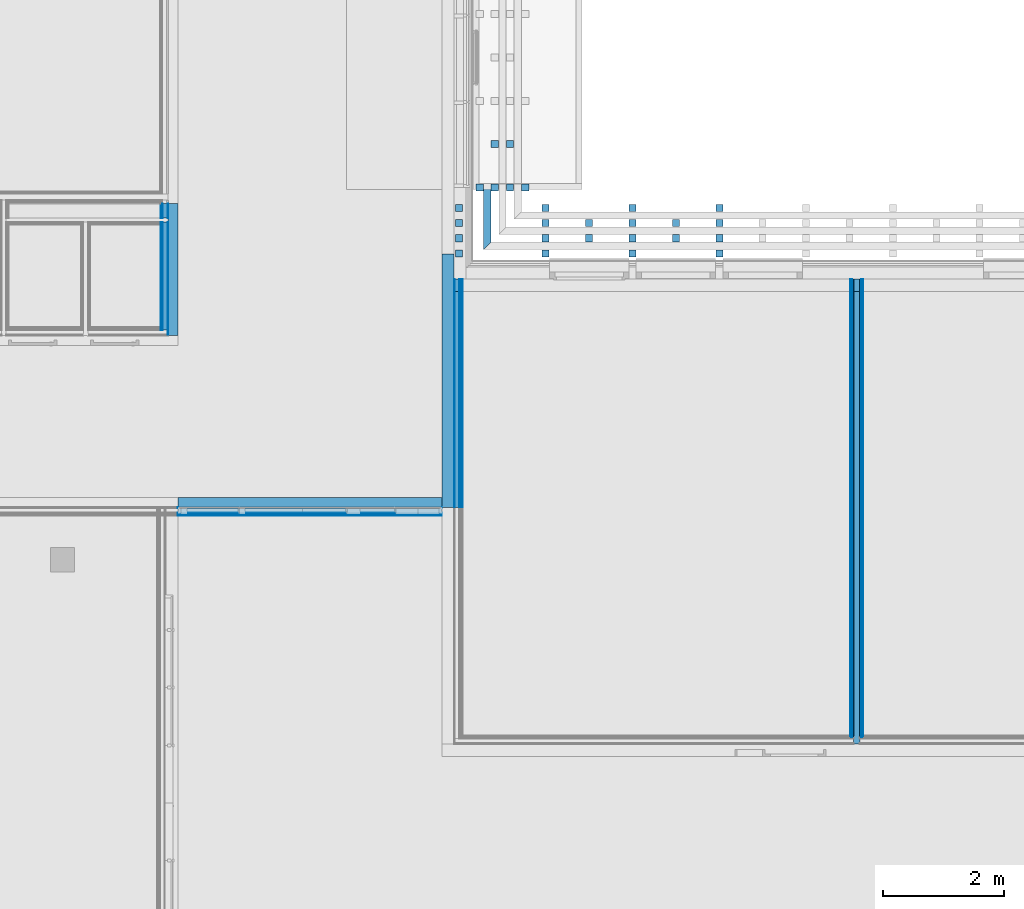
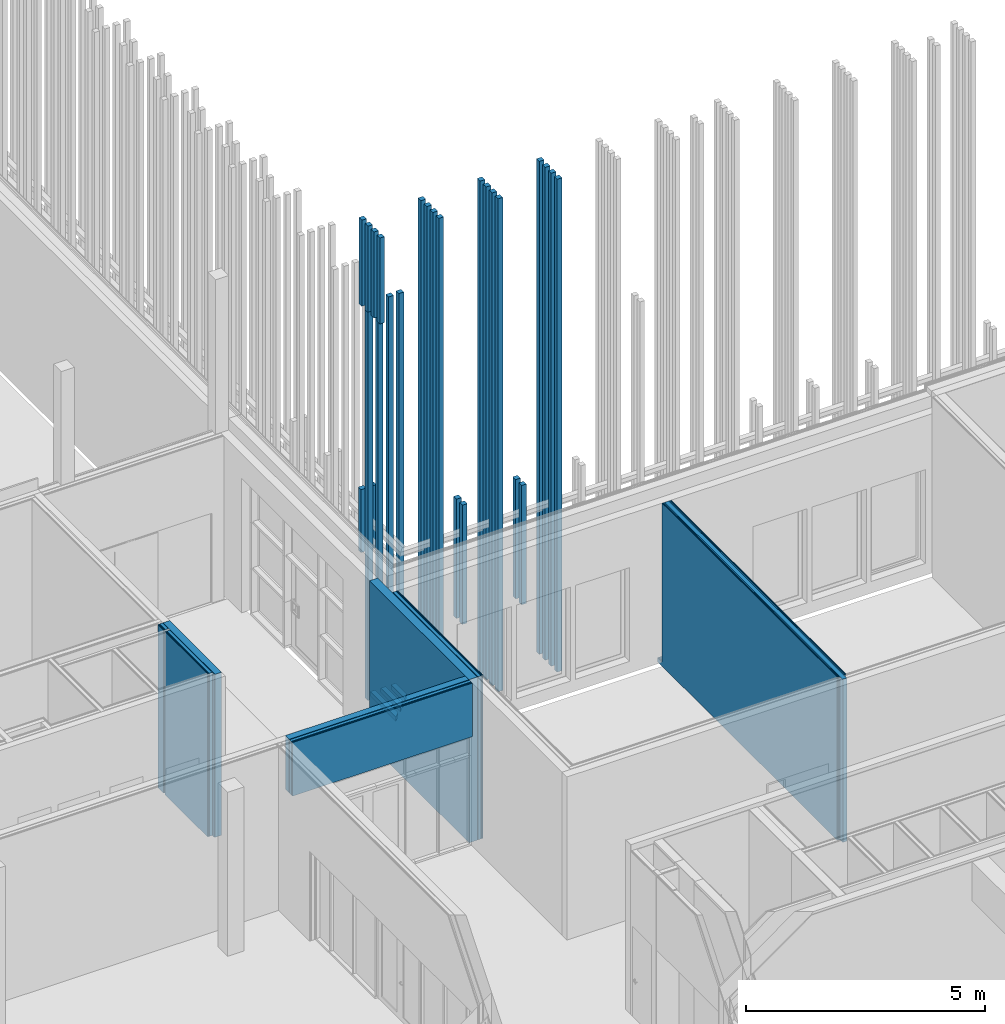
# One storey, part 184 of 260: 29 building element parts, 9 discrete accessories, 1 opening, 4 elements without a shape of their own.
"""IFC2X3 building model written with IfcOpenShell, lengths in millimetres."""

import ifcopenshell
import ifcopenshell.guid

model = None  # the IFC model being written
_history = None  # IfcOwnerHistory: only IFC2X3 demands one
_inside = {}  # id of a spatial element -> (the spatial element, [elements in it])
_under = {}  # id of a project, library or spatial element -> (it, [spatial elements below it])
_declared = {}  # id of a project -> (the project, [libraries it declares])
_typed = {}  # id of a type object -> (the type object, [elements of that type])
_made_of = {}  # id of a material, layer set ... -> (it, [elements and type objects made of it])


def new_model(schema):
    """Start an empty IFC model of exactly this schema.

    Asked for "IFC4X3", IfcOpenShell would pick the latest addendum, in which some entities
    have other attributes; the version numbers below select the first issue.
    IFC2X3 requires an IfcOwnerHistory on every rooted entity: one is made here for all.
    """
    global model, _history
    if schema == "IFC4X3":
        model = ifcopenshell.file(schema_version=(4, 3, 0, 0))
    else:
        model = ifcopenshell.file(schema=schema)
    _inside.clear()
    _under.clear()
    _declared.clear()
    _typed.clear()
    _made_of.clear()
    _history = None
    if model.schema == "IFC2X3":
        org = make("IfcOrganization", Name="unknown")
        user = make(
            "IfcPersonAndOrganization",
            ThePerson=make("IfcPerson", FamilyName="unknown"),
            TheOrganization=org,
        )
        app = make(
            "IfcApplication",
            ApplicationDeveloper=org,
            Version="unknown",
            ApplicationFullName="unknown",
            ApplicationIdentifier="unknown",
        )
        _history = make(
            "IfcOwnerHistory",
            OwningUser=user,
            OwningApplication=app,
            ChangeAction="ADDED",
            CreationDate=0,
        )
    return model


def make(cls, **values):
    """One entity of the class cls with the attributes given. An attribute that is None is left unset."""
    return model.create_entity(
        cls, **{name: value for name, value in values.items() if value is not None}
    )


def entity(cls, *values):
    """Any entity or typed value of the class cls, its attributes in the order of the schema. None: left unset."""
    e = model.create_entity(cls)
    for i, value in enumerate(values):
        if value is not None:
            e[i] = value
    return e


def rooted(cls, **values):
    """An entity with a GlobalId (a new one), such as an element, a storey or a relation."""
    return make(cls, GlobalId=ifcopenshell.guid.new(), OwnerHistory=_history, **values)


def si_unit(unit_type, name, prefix=None):
    """IfcSIUnit, for example si_unit("LENGTHUNIT", "METRE", prefix="MILLI")."""
    return make("IfcSIUnit", UnitType=unit_type, Prefix=prefix, Name=name)


def converted_unit(unit_type, name, factor, base, dimensions=None, offset=None):
    """IfcConversionBasedUnit, such as the inch: factor (a typed value) times the base unit."""
    return make(
        "IfcConversionBasedUnit"
        if offset is None
        else "IfcConversionBasedUnitWithOffset",
        ConversionOffset=offset,
        Dimensions=None
        if dimensions is None
        else entity("IfcDimensionalExponents", *dimensions),
        UnitType=unit_type,
        Name=name,
        ConversionFactor=make(
            "IfcMeasureWithUnit", ValueComponent=factor, UnitComponent=base
        ),
    )


def derived_unit(unit_type, elements):
    """IfcDerivedUnit: a product of units, each with its exponent."""
    return make(
        "IfcDerivedUnit",
        Elements=[
            make("IfcDerivedUnitElement", Unit=unit, Exponent=power)
            for unit, power in elements
        ],
        UnitType=unit_type,
    )


def money_unit(currency):
    """IfcMonetaryUnit."""
    return make("IfcMonetaryUnit", Currency=currency)


def assignment(units):
    """IfcUnitAssignment: the units of a project."""
    return None if units is None else make("IfcUnitAssignment", Units=units)


def point(xyz):
    """IfcCartesianPoint."""
    return None if xyz is None else make("IfcCartesianPoint", Coordinates=xyz)


def direction(xyz):
    """IfcDirection."""
    return None if xyz is None else make("IfcDirection", DirectionRatios=xyz)


def frame(location, z_axis=None, x_axis=None):
    """IfcAxis2Placement3D, a coordinate frame: its origin and axes. An axis left out is left unset."""
    return make(
        "IfcAxis2Placement3D",
        Location=point(location),
        Axis=direction(z_axis),
        RefDirection=direction(x_axis),
    )


def origin_with_axes():
    """The frame at (0, 0, 0) with the z axis (0, 0, 1) and the x axis (1, 0, 0) written out."""
    return frame((0.0, 0.0, 0.0), z_axis=(0.0, 0.0, 1.0), x_axis=(1.0, 0.0, 0.0))


def place(relative_to, where):
    """IfcLocalPlacement: puts the frame where relative to a parent placement (None: the world)."""
    return make(
        "IfcLocalPlacement", PlacementRelTo=relative_to, RelativePlacement=where
    )


def context(
    kind, dimensions, precision=None, world=None, true_north=None, identifier=None
):
    """IfcGeometricRepresentationContext, for example the 3D "Model" context."""
    return make(
        "IfcGeometricRepresentationContext",
        ContextIdentifier=identifier,
        ContextType=kind,
        CoordinateSpaceDimension=dimensions,
        Precision=precision,
        WorldCoordinateSystem=world,
        TrueNorth=true_north,
    )


def subcontext(parent, identifier, kind, view, scale=None):
    """IfcGeometricRepresentationSubContext, for example "Body" below "Model"."""
    return make(
        "IfcGeometricRepresentationSubContext",
        ContextIdentifier=identifier,
        ContextType=kind,
        ParentContext=parent,
        TargetScale=scale,
        TargetView=view,
    )


def project(units=None, contexts=None):
    """IfcProject with its units and contexts."""
    return rooted(
        "IfcProject",
        Name="project",
        RepresentationContexts=contexts,
        UnitsInContext=assignment(units),
    )


def spatial(cls, under=None, at=None, **own):
    """A site, building, storey or space (cls), placed at a placement, below another one or the project."""
    s = rooted(cls, ObjectPlacement=at, **own)
    if under is not None:
        _under.setdefault(under.id(), (under, []))[1].append(s)
    return s


def faces_of(points, faces, orient=None, outer=None):
    """IfcFace entities. A face is a list of loops; a loop is a list of indices into points, from 0.

    orient and outer hold one flag for each loop. By default every Orientation is true, the
    first loop of a face is its IfcFaceOuterBound and the others are IfcFaceBound.
    """
    made = []
    for i, loops in enumerate(faces):
        bounds = []
        for j, loop in enumerate(loops):
            is_outer = j == 0 if outer is None else outer[i][j]
            bounds.append(
                make(
                    "IfcFaceOuterBound" if is_outer else "IfcFaceBound",
                    Bound=make("IfcPolyLoop", Polygon=[points[k] for k in loop]),
                    Orientation=True if orient is None else orient[i][j],
                )
            )
        made.append(make("IfcFace", Bounds=bounds))
    return made


def faceted_brep(points, faces, orient=None, outer=None, voids=None):
    """IfcFacetedBrep: a solid bounded by flat faces; with voids (closed shells), ...WithVoids."""
    shared = [point(p) for p in points]
    hull = make("IfcClosedShell", CfsFaces=faces_of(shared, faces, orient, outer))
    if voids is None:
        return make("IfcFacetedBrep", Outer=hull)
    return make(
        "IfcFacetedBrepWithVoids",
        Outer=hull,
        Voids=[
            make(cls, CfsFaces=faces_of(shared, fs, o, b)) for cls, fs, o, b in voids
        ],
    )


def shape(context_of_items, identifier, shape_type, items):
    """IfcShapeRepresentation: the items that make up one representation, for example the "Body"."""
    return make(
        "IfcShapeRepresentation",
        ContextOfItems=context_of_items,
        RepresentationIdentifier=identifier,
        RepresentationType=shape_type,
        Items=items,
    )


def material(Name=None, Category=None):
    """IfcMaterial."""
    return make("IfcMaterial", Name=Name, Category=Category)


def material_list(materials):
    """IfcMaterialList."""
    return make("IfcMaterialList", Materials=materials)


def made_of(thing, what):
    """Note that an element or type object is made of a material, layer set ...; save() writes the relation."""
    if what is not None:
        _made_of.setdefault(what.id(), (what, []))[1].append(thing)
    return thing


def type_object(cls, material=None, **own):
    """A type object (cls), such as IfcWallType, which elements share."""
    return made_of(rooted(cls, **own), material)


def element(
    cls,
    number,
    at=None,
    inside=None,
    cuts=None,
    type_object=None,
    material=None,
    context=None,
    identifier="Body",
    shape_type=None,
    held_by="IfcProductDefinitionShape",
    body=None,
    shapes=None,
    **own,
):
    """One element of the class cls, such as IfcWall. Its Tag is "e" and its number.

    at: its placement. inside: the storey or other place that contains it. cuts: it is an
    opening in that element (IfcRelVoidsElement). A single representation is given by context,
    identifier, shape_type and body (its items); several are given by shapes. held_by: the class
    of the entity that holds the representations. save() writes the other relations.
    """
    e = rooted(cls, Tag="e%d" % number, ObjectPlacement=at, **own)
    if body is not None:
        shapes = [shape(context, identifier, shape_type, body)]
    if shapes is not None:
        e.Representation = make(held_by, Representations=shapes)
    if inside is not None:
        _inside.setdefault(inside.id(), (inside, []))[1].append(e)
    if cuts is not None:
        rooted(
            "IfcRelVoidsElement", RelatingBuildingElement=cuts, RelatedOpeningElement=e
        )
    if type_object is not None:
        _typed.setdefault(type_object.id(), (type_object, []))[1].append(e)
    return made_of(e, material)


def aggregate(whole, parts):
    """IfcRelAggregates: a whole, such as a stair, and the parts it consists of."""
    return rooted("IfcRelAggregates", RelatingObject=whole, RelatedObjects=parts)


def save(model, path):
    """Write the relations noted so far, then the file.

    IfcRelAggregates (storeys below a building ...), IfcRelContainedInSpatialStructure (elements
    in a storey), IfcRelDefinesByType, IfcRelAssociatesMaterial and IfcRelDeclares: one each for
    every whole, place, type object, material and project.
    """
    for whole, parts in _under.values():
        aggregate(whole, parts)
    for where, things in _inside.values():
        rooted(
            "IfcRelContainedInSpatialStructure",
            RelatedElements=things,
            RelatingStructure=where,
        )
    for kind, things in _typed.values():
        rooted("IfcRelDefinesByType", RelatedObjects=things, RelatingType=kind)
    for what, things in _made_of.values():
        rooted("IfcRelAssociatesMaterial", RelatedObjects=things, RelatingMaterial=what)
    for by, libraries in _declared.values():
        rooted("IfcRelDeclares", RelatingContext=by, RelatedDefinitions=libraries)
    model.write(path)


model = new_model("IFC2X3")

# Units and contexts
model_context = context("Model", 3, precision=0.01, world=origin_with_axes(), true_north=direction((0.0, 1.0)))
body_context = subcontext(model_context, "Body", "Model", "MODEL_VIEW")
ifc_project = project(units=[si_unit("LENGTHUNIT", "METRE", prefix="MILLI"), si_unit("AREAUNIT", "SQUARE_METRE"), si_unit("VOLUMEUNIT", "CUBIC_METRE"), converted_unit("PLANEANGLEUNIT", "DEGREE", entity("IfcPlaneAngleMeasure", 0.0174532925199), si_unit("PLANEANGLEUNIT", "RADIAN"), dimensions=[0, 0, 0, 0, 0, 0, 0]), money_unit("EUR"), converted_unit("TIMEUNIT", "Year", entity("IfcTimeMeasure", 31556926.0), si_unit("TIMEUNIT", "SECOND"), dimensions=[0, 0, 1, 0, 0, 0, 0]), si_unit("MASSUNIT", "GRAM", prefix="KILO"), si_unit("THERMODYNAMICTEMPERATUREUNIT", "DEGREE_CELSIUS"), si_unit("LUMINOUSINTENSITYUNIT", "LUMEN"), si_unit("ENERGYUNIT", "JOULE", prefix="MEGA"), derived_unit("THERMALCONDUCTANCEUNIT", [(si_unit("POWERUNIT", "WATT"), 1), (si_unit("LENGTHUNIT", "METRE"), -1), (si_unit("THERMODYNAMICTEMPERATUREUNIT", "KELVIN"), -1)]), derived_unit("SPECIFICHEATCAPACITYUNIT", [(si_unit("ENERGYUNIT", "JOULE"), 1), (si_unit("MASSUNIT", "GRAM", prefix="KILO"), -1), (si_unit("THERMODYNAMICTEMPERATUREUNIT", "KELVIN"), -1)]), derived_unit("MASSDENSITYUNIT", [(si_unit("MASSUNIT", "GRAM", prefix="KILO"), 1), (si_unit("VOLUMEUNIT", "CUBIC_METRE"), -1)])], contexts=[model_context])

# Site, building, storey
site_placement = place(None, origin_with_axes())
site = spatial("IfcSite", under=ifc_project, at=site_placement, Name="Kolde pst 67a", CompositionType="ELEMENT")
building_placement = place(site_placement, origin_with_axes())
building = spatial("IfcBuilding", under=site, at=building_placement, Name="Riigigümnaasium", CompositionType="ELEMENT")
storey_placement = place(building_placement, origin_with_axes())
storey = spatial("IfcBuildingStorey", under=building, at=storey_placement, Name="1. korrus", CompositionType="ELEMENT", Elevation=0.0)

# Discrete accessories
ifc_material_1 = material(Name="_VÄLISVIIMISTLUS - sõrmjätkatud puitprussid 120x115mm, liitekohad vähemärgatavad, Platowood sõrmjätkatud kuusk või samaväärne; eeltöödeldud tuletõkkevõõbaga, tuletundlikkus B-s1, d0, Woodsafe Exterior WFX™ või samaväärne; kinnitused vastavalt EK osale")
ifc_material_list_1 = material_list([ifc_material_1, ifc_material_1, ifc_material_1, ifc_material_1])
discrete_accessory_type_1 = type_object("IfcDiscreteAccessoryType", Name="120 4-ne vertikaalne 870 x 115")
discrete_accessory_1_placement = place(storey_placement, frame((36789.999111, 61937.5247324, 280.0), z_axis=(0.0, 0.0, 1.0), x_axis=(-0.999999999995, -3.13999128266e-06, 0.0)))
element("IfcDiscreteAccessory", 1, at=discrete_accessory_1_placement, inside=storey, type_object=discrete_accessory_type_1, material=ifc_material_list_1, Name="Päikesevarjestus", context=body_context, shape_type="Brep", body=[
    faceted_brep([(-133.0, -70.0, 0.0), (-13.0, -70.0, 0.0), (-13.0, -70.0, 10140.0), (-133.0, -70.0, 10140.0), (-133.0, 45.0, 0.0), (-13.0, 45.0, 0.0), (-13.0, 45.0, 10140.0), (-133.0, 45.0, 10140.0)], [[[0, 1, 2, 3]], [[0, 4, 5, 1]], [[1, 5, 6, 2]], [[3, 2, 6, 7]], [[4, 0, 3, 7]], [[5, 4, 7, 6]]]),
    faceted_brep([(-383.0, -70.0, 0.0), (-263.0, -70.0, 0.0), (-263.0, -70.0, 10140.0), (-383.0, -70.0, 10140.0), (-383.0, 45.0, 0.0), (-263.0, 45.0, 0.0), (-263.0, 45.0, 10140.0), (-383.0, 45.0, 10140.0)], [[[0, 1, 2, 3]], [[0, 4, 5, 1]], [[1, 5, 6, 2]], [[3, 2, 6, 7]], [[4, 0, 3, 7]], [[5, 4, 7, 6]]]),
    faceted_brep([(-633.0, -70.0, 0.0), (-513.0, -70.0, 0.0), (-513.0, -70.0, 10140.0), (-633.0, -70.0, 10140.0), (-633.0, 45.0, 0.0), (-513.0, 45.0, 0.0), (-513.0, 45.0, 10140.0), (-633.0, 45.0, 10140.0)], [[[0, 1, 2, 3]], [[0, 4, 5, 1]], [[1, 5, 6, 2]], [[3, 2, 6, 7]], [[4, 0, 3, 7]], [[5, 4, 7, 6]]]),
    faceted_brep([(-883.0, -70.0, 0.0), (-763.0, -70.0, 0.0), (-763.0, -70.0, 10140.0), (-883.0, -70.0, 10140.0), (-883.0, 45.0, 0.0), (-763.0, 45.0, 0.0), (-763.0, 45.0, 10140.0), (-883.0, 45.0, 10140.0)], [[[0, 1, 2, 3]], [[0, 4, 5, 1]], [[1, 5, 6, 2]], [[3, 2, 6, 7]], [[4, 0, 3, 7]], [[5, 4, 7, 6]]]),
])
discrete_accessory_2_placement = place(storey_placement, frame((36532.5846284, 60792.0000352, 10680.0), z_axis=(0.0, 0.0, 1.0), x_axis=(3.13999128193e-06, -0.999999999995, 0.0)))
element("IfcDiscreteAccessory", 2, at=discrete_accessory_2_placement, inside=storey, type_object=discrete_accessory_type_1, material=ifc_material_list_1, Name="Päikesevarjestus", context=body_context, shape_type="Brep", body=[
    faceted_brep([(-133.0, -70.0, 0.0), (-13.0, -70.0, 0.0), (-13.0, -70.0, 2200.0), (-133.0, -70.0, 2200.0), (-133.0, 45.0, 0.0), (-13.0, 45.0, 0.0), (-13.0, 45.0, 2200.0), (-133.0, 45.0, 2200.0)], [[[0, 1, 2, 3]], [[0, 4, 5, 1]], [[1, 5, 6, 2]], [[3, 2, 6, 7]], [[4, 0, 3, 7]], [[5, 4, 7, 6]]]),
    faceted_brep([(-383.0, -70.0, 0.0), (-263.0, -70.0, 0.0), (-263.0, -70.0, 2200.0), (-383.0, -70.0, 2200.0), (-383.0, 45.0, 0.0), (-263.0, 45.0, 0.0), (-263.0, 45.0, 2200.0), (-383.0, 45.0, 2200.0)], [[[0, 1, 2, 3]], [[0, 4, 5, 1]], [[1, 5, 6, 2]], [[3, 2, 6, 7]], [[4, 0, 3, 7]], [[5, 4, 7, 6]]]),
    faceted_brep([(-633.0, -70.0, 0.0), (-513.0, -70.0, 0.0), (-513.0, -70.0, 2200.0), (-633.0, -70.0, 2200.0), (-633.0, 45.0, 0.0), (-513.0, 45.0, 0.0), (-513.0, 45.0, 2200.0), (-633.0, 45.0, 2200.0)], [[[0, 1, 2, 3]], [[0, 4, 5, 1]], [[1, 5, 6, 2]], [[3, 2, 6, 7]], [[4, 0, 3, 7]], [[5, 4, 7, 6]]]),
    faceted_brep([(-883.0, -70.0, 0.0), (-763.0, -70.0, 0.0), (-763.0, -70.0, 2200.0), (-883.0, -70.0, 2200.0), (-883.0, 45.0, 0.0), (-763.0, 45.0, 0.0), (-763.0, 45.0, 2200.0), (-883.0, 45.0, 2200.0)], [[[0, 1, 2, 3]], [[0, 4, 5, 1]], [[1, 5, 6, 2]], [[3, 2, 6, 7]], [[4, 0, 3, 7]], [[5, 4, 7, 6]]]),
])
for number, where, z_axis, x_axis in (
    (3, (40822.494314, 60792.0000843, 280.0), (0.0, 0.0, 1.0), (3.13999128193e-06, -0.999999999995, 0.0)),
    (4, (39392.494314, 60792.0000609, 280.0), (0.0, 0.0, 1.0), (3.13999128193e-06, -0.999999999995, 0.0)),
    (5, (37962.494314, 60792.0000375, 280.0), (0.0, 0.0, 1.0), (3.13999128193e-06, -0.999999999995, 0.0)),
):
    element("IfcDiscreteAccessory", number, at=place(storey_placement, frame(where, z_axis=z_axis, x_axis=x_axis)), inside=storey, type_object=discrete_accessory_type_1, material=ifc_material_list_1, Name="Päikesevarjestus", context=body_context, shape_type="Brep", body=[
        faceted_brep([(-133.0, -70.0, 0.0), (-13.0, -70.0, 0.0), (-13.0, -70.0, 12600.0), (-133.0, -70.0, 12600.0), (-133.0, 45.0, 0.0), (-13.0, 45.0, 0.0), (-13.0, 45.0, 12600.0), (-133.0, 45.0, 12600.0)], [[[0, 1, 2, 3]], [[0, 4, 5, 1]], [[1, 5, 6, 2]], [[3, 2, 6, 7]], [[4, 0, 3, 7]], [[5, 4, 7, 6]]]),
        faceted_brep([(-383.0, -70.0, 0.0), (-263.0, -70.0, 0.0), (-263.0, -70.0, 12600.0), (-383.0, -70.0, 12600.0), (-383.0, 45.0, 0.0), (-263.0, 45.0, 0.0), (-263.0, 45.0, 12600.0), (-383.0, 45.0, 12600.0)], [[[0, 1, 2, 3]], [[0, 4, 5, 1]], [[1, 5, 6, 2]], [[3, 2, 6, 7]], [[4, 0, 3, 7]], [[5, 4, 7, 6]]]),
        faceted_brep([(-633.0, -70.0, 0.0), (-513.0, -70.0, 0.0), (-513.0, -70.0, 12600.0), (-633.0, -70.0, 12600.0), (-633.0, 45.0, 0.0), (-513.0, 45.0, 0.0), (-513.0, 45.0, 12600.0), (-633.0, 45.0, 12600.0)], [[[0, 1, 2, 3]], [[0, 4, 5, 1]], [[1, 5, 6, 2]], [[3, 2, 6, 7]], [[4, 0, 3, 7]], [[5, 4, 7, 6]]]),
        faceted_brep([(-883.0, -70.0, 0.0), (-763.0, -70.0, 0.0), (-763.0, -70.0, 12600.0), (-883.0, -70.0, 12600.0), (-883.0, 45.0, 0.0), (-763.0, 45.0, 0.0), (-763.0, 45.0, 12600.0), (-883.0, 45.0, 12600.0)], [[[0, 1, 2, 3]], [[0, 4, 5, 1]], [[1, 5, 6, 2]], [[3, 2, 6, 7]], [[4, 0, 3, 7]], [[5, 4, 7, 6]]]),
    ])
ifc_material_list_2 = material_list([ifc_material_1, ifc_material_1, ifc_material_1])
discrete_accessory_type_2 = type_object("IfcDiscreteAccessoryType", Name="120 1+paiksekaitse 3 tk  620 x 115")
discrete_accessory_3_placement = place(storey_placement, frame((36802.9988833, 60804.99951, 352.5), z_axis=(0.0, 0.0, 1.0), x_axis=(1.0, 0.0, 0.0)))
element("IfcDiscreteAccessory", 6, at=discrete_accessory_3_placement, inside=storey, type_object=discrete_accessory_type_2, material=ifc_material_list_2, Name="Päikesevarjestus", context=body_context, shape_type="Brep", body=[
    faceted_brep([(625.0, 1205.02752402, 45.0), (625.0, 625.000013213, 45.0), (745.0, 745.00001575, 45.0), (745.0, 1205.02752402, 45.0), (625.0, 1205.02752402, -70.0), (625.0, 625.000013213, -70.0), (745.0, 745.00001575, -70.0), (745.0, 1205.02752402, -70.0)], [[[0, 1, 2, 3]], [[4, 5, 1, 0]], [[5, 6, 2, 1]], [[3, 2, 6, 7]], [[4, 0, 3, 7]], [[7, 6, 5, 4]]]),
    faceted_brep([(375.0, 1205.02752402, 45.0), (375.0, 375.000007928, 45.0), (495.0, 495.000010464, 45.0), (495.0, 1205.02752402, 45.0), (375.0, 1205.02752402, -70.0), (375.0, 375.000007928, -70.0), (495.0, 495.000010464, -70.0), (495.0, 1205.02752402, -70.0)], [[[0, 1, 2, 3]], [[4, 5, 1, 0]], [[5, 6, 2, 1]], [[3, 2, 6, 7]], [[4, 0, 3, 7]], [[7, 6, 5, 4]]]),
    faceted_brep([(125.0, 1205.02752402, 45.0), (125.0, 125.000002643, 45.0), (245.0, 245.000005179, 45.0), (245.0, 1205.02752402, 45.0), (125.0, 1205.02752402, -70.0), (125.0, 125.000002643, -70.0), (245.0, 245.000005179, -70.0), (245.0, 1205.02752402, -70.0)], [[[0, 1, 2, 3]], [[4, 5, 1, 0]], [[5, 6, 2, 1]], [[3, 2, 6, 7]], [[4, 0, 3, 7]], [[7, 6, 5, 4]]]),
])
ifc_material_list_3 = material_list([ifc_material_1, ifc_material_1])
discrete_accessory_type_3 = type_object("IfcDiscreteAccessoryType", Name="1+paiksekaitse 3 370 x 115")
for number, where, z_axis, x_axis in (
    (7, (40035.0059762, 61772.0001843, 2100.00014213), (0.0, 0.0, 1.0), (0.0, -1.0, 0.0)),
    (8, (38604.990882, 61771.9998075, 2100.00014213), (0.0, 0.0, 1.0), (0.0, -1.0, 0.0)),
):
    element("IfcDiscreteAccessory", number, at=place(storey_placement, frame(where, z_axis=z_axis, x_axis=x_axis)), inside=storey, type_object=discrete_accessory_type_3, material=ifc_material_list_3, Name="Päikesevarjestus", context=body_context, shape_type="Brep", body=[
        faceted_brep([(467.0, 117.5, 0.0), (347.0, 117.5, 0.0), (347.0, 117.5, 3050.0), (467.0, 117.5, 3050.0), (467.0, 2.5, 0.0), (347.0, 2.5, 0.0), (347.0, 2.5, 3050.0), (467.0, 2.5, 3050.0)], [[[0, 1, 2, 3]], [[0, 4, 5, 1]], [[1, 5, 6, 2]], [[3, 2, 6, 7]], [[4, 0, 3, 7]], [[5, 4, 7, 6]]]),
        faceted_brep([(717.0, 117.5, 0.0), (597.0, 117.5, 0.0), (597.0, 117.5, 3050.0), (717.0, 117.5, 3050.0), (717.0, 2.5, 0.0), (597.0, 2.5, 0.0), (597.0, 2.5, 3050.0), (717.0, 2.5, 3050.0)], [[[0, 1, 2, 3]], [[0, 4, 5, 1]], [[1, 5, 6, 2]], [[3, 2, 6, 7]], [[4, 0, 3, 7]], [[5, 4, 7, 6]]]),
    ])
discrete_accessory_4_placement = place(storey_placement, frame((37769.99923, 62725.0246394, 3540.00014213), z_axis=(0.0, 0.0, 1.0), x_axis=(-1.0, 0.0, 0.0)))
element("IfcDiscreteAccessory", 9, at=discrete_accessory_4_placement, inside=storey, type_object=discrete_accessory_type_3, material=ifc_material_list_3, Name="Päikesevarjestus", context=body_context, shape_type="Brep", body=[
    faceted_brep([(467.0, 117.5, 0.0), (347.0, 117.5, 0.0), (347.0, 117.5, 1610.0), (467.0, 117.5, 1610.0), (467.0, 2.5, 0.0), (347.0, 2.5, 0.0), (347.0, 2.5, 1610.0), (467.0, 2.5, 1610.0)], [[[0, 1, 2, 3]], [[0, 4, 5, 1]], [[1, 5, 6, 2]], [[3, 2, 6, 7]], [[4, 0, 3, 7]], [[5, 4, 7, 6]]]),
    faceted_brep([(717.0, 117.5, 0.0), (597.0, 117.5, 0.0), (597.0, 117.5, 1610.0), (717.0, 117.5, 1610.0), (717.0, 2.5, 0.0), (597.0, 2.5, 0.0), (597.0, 2.5, 1610.0), (717.0, 2.5, 1610.0)], [[[0, 1, 2, 3]], [[0, 4, 5, 1]], [[1, 5, 6, 2]], [[3, 2, 6, 7]], [[4, 0, 3, 7]], [[5, 4, 7, 6]]]),
])

# Wall, building element parts
wall_type_1 = type_object("IfcWallType", Name="SS-CLT-20/1_vill+krohv 340", PredefinedType="NOTDEFINED")
wall_1_placement = place(storey_placement, frame((36439.99923, 60440.0001843, 0.0), z_axis=(0.0, 0.0, 1.0), x_axis=(0.0, -1.0, 0.0)))
wall_1 = element("IfcWall", 10, at=wall_1_placement, inside=storey, type_object=wall_type_1, Name="Sisesein")
ifc_material_2 = material(Name="_VIIMISTLUSKIHT - viimistlus vastavalt SA osale")
building_element_part_1_placement = place(wall_1_placement, origin_with_axes())
building_element_part_1 = element("IfcBuildingElementPart", 11, at=building_element_part_1_placement, material=ifc_material_2, Name="_VIIMISTLUSKIHT - viimistlus vastavalt SA osale", context=body_context, shape_type="Brep", body=[
    faceted_brep([(199.999999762, 130.000000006, 4170.0), (199.999999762, 140.0, 4170.0), (199.999999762, 140.0, 100.0), (199.999999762, 130.000001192, 100.0), (3760.0022365, 140.0, 4170.0), (3760.0022365, 130.0, 4170.0), (3760.0022365, 140.0, 0.0), (0.0, 140.0, 0.0), (0.0, 140.0, 100.0), (0.0, 130.000001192, 100.0), (0.0, 130.000001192, 0.0), (3760.0022365, 130.0, 0.0)], [[[0, 1, 2, 3]], [[4, 1, 0, 5]], [[1, 4, 6, 7, 8, 2]], [[3, 2, 8, 9]], [[5, 0, 3, 9, 10, 11]], [[4, 5, 11, 6]], [[6, 11, 10, 7]], [[10, 9, 8, 7]]]),
])
ifc_material_3 = material(Name="_PLAATMATERJAL - tuletõkkekipsplaat, Knauf Red GKF või samaväärne")
building_element_part_2_placement = place(wall_1_placement, origin_with_axes())
building_element_part_2 = element("IfcBuildingElementPart", 12, at=building_element_part_2_placement, material=ifc_material_3, Name="_PLAATMATERJAL - tuletõkkekipsplaat, Knauf Red GKF või samaväärne", context=body_context, shape_type="Brep", body=[
    faceted_brep([(199.999999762, 115.0, 4170.0), (199.999999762, 130.000000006, 4170.0), (199.999999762, 130.000001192, 100.0), (199.999999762, 115.0, 100.0), (3760.0022365, 130.0, 4170.0), (3760.0022365, 115.0, 4170.0), (3760.0022365, 130.0, 0.0), (0.0, 130.000001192, 0.0), (0.0, 130.000001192, 100.0), (0.0, 115.0, 100.0), (0.0, 115.0, 0.0), (3760.0022365, 115.0, 0.0)], [[[0, 1, 2, 3]], [[4, 1, 0, 5]], [[1, 4, 6, 7, 8, 2]], [[3, 2, 8, 9]], [[5, 0, 3, 9, 10, 11]], [[4, 5, 11, 6]], [[6, 11, 10, 7]], [[10, 9, 8, 7]]]),
])
building_element_part_3_placement = place(wall_1_placement, origin_with_axes())
building_element_part_3 = element("IfcBuildingElementPart", 13, at=building_element_part_3_placement, material=ifc_material_3, Name="_PLAATMATERJAL - tuletõkkekipsplaat, Knauf Red GKF või samaväärne", context=body_context, shape_type="Brep", body=[
    faceted_brep([(199.999999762, 99.9999999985, 4170.0), (199.999999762, 115.0, 4170.0), (199.999999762, 115.0, 100.0), (199.999999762, 99.999999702, 100.0), (3760.0022365, 115.0, 4170.0), (3760.0022365, 100.0, 4170.0), (3760.0022365, 115.0, 0.0), (0.0, 115.0, 0.0), (0.0, 115.0, 100.0), (0.0, 99.999999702, 100.0), (0.0, 99.999999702, 0.0), (3760.0022365, 100.0, 0.0)], [[[0, 1, 2, 3]], [[4, 1, 0, 5]], [[1, 4, 6, 7, 8, 2]], [[3, 2, 8, 9]], [[5, 0, 3, 9, 10, 11]], [[4, 5, 11, 6]], [[6, 11, 10, 7]], [[10, 9, 8, 7]]]),
])
ifc_material_4 = material(Name="_PLAATMATERJAL - OSB3 plaat")
building_element_part_4_placement = place(wall_1_placement, origin_with_axes())
building_element_part_4 = element("IfcBuildingElementPart", 14, at=building_element_part_4_placement, material=ifc_material_4, Name="_PLAATMATERJAL - OSB3 plaat", context=body_context, shape_type="Brep", body=[
    faceted_brep([(199.999999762, 90.0000000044, 4170.0), (199.999999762, 99.9999999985, 4170.0), (199.999999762, 99.999999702, 100.0), (199.999999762, 90.0000008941, 100.0), (3760.0022365, 100.0, 4170.0), (3760.0022365, 90.0, 4170.0), (3760.0022365, 100.0, 0.0), (0.0, 99.999999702, 0.0), (0.0, 99.999999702, 100.0), (0.0, 90.0000008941, 100.0), (0.0, 90.0000008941, 0.0), (3760.0022365, 90.0, 0.0)], [[[0, 1, 2, 3]], [[4, 1, 0, 5]], [[1, 4, 6, 7, 8, 2]], [[3, 2, 8, 9]], [[5, 0, 3, 9, 10, 11]], [[4, 5, 11, 6]], [[6, 11, 10, 7]], [[10, 9, 8, 7]]]),
])
ifc_material_5 = material(Name="_KARKASS - metallkarkass CW 75/50/06 ja UW 75/40/06, samm 600, vahel mineraalvill, helineeldetegur αw = 1.0,  ISOVER ACOUSTIC 75mm või samaväärne")
building_element_part_5_placement = place(wall_1_placement, origin_with_axes())
building_element_part_5 = element("IfcBuildingElementPart", 15, at=building_element_part_5_placement, material=ifc_material_5, Name="_KARKASS - metallkarkass CW 75/50/06 ja UW 75/40/06, samm 600, vahel mineraalvill, helineeldetegur αw = 1.0,  ISOVER ACOUSTIC 75mm või samaväärne", context=body_context, shape_type="Brep", body=[
    faceted_brep([(199.999999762, 14.9999999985, 4170.0), (199.999999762, 90.0000000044, 4170.0), (199.999999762, 90.0000008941, 100.0), (199.999999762, 14.999999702, 100.0), (3760.0022365, 90.0, 4170.0), (3760.0022365, 15.0, 4170.0), (3760.0022365, 90.0, 0.0), (0.0, 90.0000008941, 0.0), (0.0, 90.0000008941, 100.0), (0.0, 14.999999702, 100.0), (0.0, 14.999999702, 0.0), (3760.0022365, 15.0, 0.0)], [[[0, 1, 2, 3]], [[4, 1, 0, 5]], [[1, 4, 6, 7, 8, 2]], [[3, 2, 8, 9]], [[5, 0, 3, 9, 10, 11]], [[4, 5, 11, 6]], [[6, 11, 10, 7]], [[10, 9, 8, 7]]]),
])
ifc_material_6 = material(Name="_ÕHKVAHE")
building_element_part_6_placement = place(wall_1_placement, origin_with_axes())
building_element_part_6 = element("IfcBuildingElementPart", 16, at=building_element_part_6_placement, material=ifc_material_6, Name="_ÕHKVAHE", context=body_context, shape_type="Brep", body=[
    faceted_brep([(199.999999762, 0.0, 4170.0), (199.999999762, 14.9999999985, 4170.0), (199.999999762, 14.999999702, 100.0), (199.999999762, 0.0, 100.0), (3760.0022365, 15.0, 4170.0), (3760.0022365, 0.0, 4170.0), (3760.0022365, 15.0, 0.0), (0.0, 14.999999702, 0.0), (0.0, 14.999999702, 100.0), (0.0, 0.0, 100.0), (0.0, 1.4901146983e-06, 0.0), (3760.0022365, 0.0, 0.0)], [[[0, 1, 2, 3]], [[4, 1, 0, 5]], [[1, 4, 6, 7, 8, 2]], [[3, 2, 8, 9]], [[5, 0, 3, 9, 10, 11]], [[4, 5, 11, 6]], [[6, 11, 10, 7]], [[10, 9, 8, 7]]]),
])
ifc_material_7 = material(Name="_KANDETARIND - CLT ristkihtliimpuit vastavalt EK osale, CLT paigaldusvuugid teibitakse ROTHOBLAAS teibiga")
building_element_part_7_placement = place(wall_1_placement, origin_with_axes())
building_element_part_7 = element("IfcBuildingElementPart", 17, at=building_element_part_7_placement, material=ifc_material_7, Name="_KANDETARIND - CLT ristkihtliimpuit vastavalt EK osale, CLT paigaldusvuugid teibitakse ROTHOBLAAS teibiga", context=body_context, shape_type="Brep", body=[
    faceted_brep([(-412.0, -200.0, 4170.0), (-412.0, 0.0, 4170.0), (-412.0, 1.4901146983e-06, 99.9999982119), (-412.0, -200.0, 99.9999982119), (0.0, 0.0, 4170.0), (3760.0022365, -200.0, 4170.0), (3760.0022365, 0.0, 4170.0), (3760.0022365, 0.0, 0.0), (0.0, 1.4901146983e-06, 0.0), (0.0, 1.4901146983e-06, 99.9999982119), (0.0, -200.0, 99.9999982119), (0.0, -200.0, 0.0), (3760.0022365, -200.0, 0.0)], [[[0, 1, 2, 3]], [[4, 1, 0, 5, 6]], [[4, 6, 7, 8, 9, 2, 1]], [[9, 10, 3, 2]], [[5, 0, 3, 10, 11, 12]], [[6, 5, 12, 7]], [[7, 12, 11, 8]], [[11, 10, 9, 8]]]),
])
aggregate(wall_1, [building_element_part_1, building_element_part_2, building_element_part_3, building_element_part_4, building_element_part_5, building_element_part_6, building_element_part_7])

wall_type_2 = type_object("IfcWallType", Name="SS-PK-10/4_vill100+2värv distantsliistudega 220", PredefinedType="NOTDEFINED")
wall_2_placement = place(storey_placement, frame((42964.99923, 60440.0001843, 0.0), z_axis=(0.0, 0.0, 1.0), x_axis=(0.0, -1.0, 0.0)))
wall_2 = element("IfcWall", 18, at=wall_2_placement, inside=storey, type_object=wall_type_2, Name="Sisesein")
building_element_part_8_placement = place(wall_2_placement, origin_with_axes())
building_element_part_8 = element("IfcBuildingElementPart", 19, at=building_element_part_8_placement, material=ifc_material_2, Name="_VIIMISTLUSKIHT - viimistlus vastavalt SA osale", context=body_context, shape_type="Brep", body=[
    faceted_brep([(200.0, 215.0, 4170.0), (200.0, 220.0, 4170.0), (200.0, 220.0, 100.0), (200.0, 215.0, 100.0), (7520.0, 220.0, 4170.0), (7520.0, 215.0, 4170.0), (7520.0, 220.0, 0.0), (0.0, 220.0, 0.0), (0.0, 220.0, 100.0), (0.0, 215.0, 100.0), (0.0, 215.0, 0.0), (7520.0, 215.0, 0.0)], [[[0, 1, 2, 3]], [[4, 1, 0, 5]], [[1, 4, 6, 7, 8, 2]], [[3, 2, 8, 9]], [[5, 0, 3, 9, 10, 11]], [[4, 5, 11, 6]], [[6, 11, 10, 7]], [[10, 9, 8, 7]]]),
])
building_element_part_9_placement = place(wall_2_placement, origin_with_axes())
building_element_part_9 = element("IfcBuildingElementPart", 20, at=building_element_part_9_placement, material=ifc_material_3, Name="_PLAATMATERJAL - tuletõkkekipsplaat, Knauf Red GKF või samaväärne", context=body_context, shape_type="Brep", body=[
    faceted_brep([(200.0, 200.0, 4170.0), (200.0, 215.0, 4170.0), (200.0, 215.0, 100.0), (200.0, 200.0, 100.0), (7530.0, 215.0, 4170.0), (7530.0, 200.0, 4170.0), (7530.0, 215.0, 0.0), (0.0, 215.0, 0.0), (0.0, 215.0, 100.0), (0.0, 200.0, 100.0), (0.0, 200.0, 0.0), (7530.0, 200.0, 0.0)], [[[0, 1, 2, 3]], [[4, 1, 0, 5]], [[1, 4, 6, 7, 8, 2]], [[3, 2, 8, 9]], [[5, 0, 3, 9, 10, 11]], [[4, 5, 11, 6]], [[6, 11, 10, 7]], [[10, 9, 8, 7]]]),
])
building_element_part_10_placement = place(wall_2_placement, origin_with_axes())
building_element_part_10 = element("IfcBuildingElementPart", 21, at=building_element_part_10_placement, material=ifc_material_4, Name="_PLAATMATERJAL - OSB3 plaat", context=body_context, shape_type="Brep", body=[
    faceted_brep([(200.0, 185.0, 4170.0), (200.0, 200.0, 4170.0), (200.0, 200.0, 100.0), (200.0, 185.0, 100.0), (7545.0, 200.0, 4170.0), (7545.0, 185.0, 4170.0), (7545.0, 200.0, 0.0), (0.0, 200.0, 0.0), (0.0, 200.0, 100.0), (0.0, 185.0, 100.0), (0.0, 185.0, 0.0), (7545.0, 185.0, 0.0)], [[[0, 1, 2, 3]], [[4, 1, 0, 5]], [[1, 4, 6, 7, 8, 2]], [[3, 2, 8, 9]], [[5, 0, 3, 9, 10, 11]], [[4, 5, 11, 6]], [[6, 11, 10, 7]], [[10, 9, 8, 7]]]),
])
ifc_material_8 = material(Name="_KARKASS- distantasliist")
building_element_part_11_placement = place(wall_2_placement, origin_with_axes())
building_element_part_11 = element("IfcBuildingElementPart", 22, at=building_element_part_11_placement, material=ifc_material_8, Name="_KARKASS- distantasliist", context=body_context, shape_type="Brep", body=[
    faceted_brep([(200.0, 160.0, 4170.0), (200.0, 185.0, 4170.0), (200.0, 185.0, 100.0), (200.0, 160.0, 100.0), (7545.0, 185.0, 4170.0), (7545.0, 160.0, 4170.0), (7545.0, 185.0, 0.0), (0.0, 185.0, 0.0), (0.0, 185.0, 100.0), (0.0, 160.0, 100.0), (0.0, 160.0, 0.0), (7545.0, 160.0, 0.0)], [[[0, 1, 2, 3]], [[4, 1, 0, 5]], [[1, 4, 6, 7, 8, 2]], [[3, 2, 8, 9]], [[5, 0, 3, 9, 10, 11]], [[4, 5, 11, 6]], [[6, 11, 10, 7]], [[10, 9, 8, 7]]]),
])
ifc_material_9 = material(Name="_KARKASS - puitpruss 100x50mm vertikaalne, samm 600mm, vahel mineraalvill, helineeldetegur αw = 1.0, ISOVER ACOUSTIC 100mm või samaväärne")
building_element_part_12_placement = place(wall_2_placement, origin_with_axes())
building_element_part_12 = element("IfcBuildingElementPart", 23, at=building_element_part_12_placement, material=ifc_material_9, Name="_KARKASS - puitpruss 100x50mm vertikaalne, samm 600mm, vahel mineraalvill, helineeldetegur αw = 1.0, ISOVER ACOUSTIC 100mm või samaväärne", context=body_context, shape_type="Brep", body=[
    faceted_brep([(200.0, 60.0, 4170.0), (200.0, 160.0, 4170.0), (200.0, 160.0, 100.0), (200.0, 60.0, 100.0), (7660.0, 160.0, 4170.0), (7660.0, 60.0, 4170.0), (7660.0, 160.0, 0.0), (0.0, 160.0, 0.0), (0.0, 160.0, 100.0), (0.0, 60.0, 100.0), (0.0, 60.0, 0.0), (7660.0, 60.0, 0.0)], [[[0, 1, 2, 3]], [[4, 1, 0, 5]], [[1, 4, 6, 7, 8, 2]], [[3, 2, 8, 9]], [[5, 0, 3, 9, 10, 11]], [[4, 5, 11, 6]], [[6, 11, 10, 7]], [[10, 9, 8, 7]]]),
])
building_element_part_13_placement = place(wall_2_placement, origin_with_axes())
building_element_part_13 = element("IfcBuildingElementPart", 24, at=building_element_part_13_placement, material=ifc_material_8, Name="_KARKASS- distantasliist", context=body_context, shape_type="Brep", body=[
    faceted_brep([(200.0, 35.0, 4170.0), (200.0, 60.0, 4170.0), (200.0, 60.0, 100.0), (200.0, 35.0, 100.0), (7545.0, 60.0, 4170.0), (7545.0, 35.0, 4170.0), (7545.0, 60.0, 0.0), (0.0, 60.0, 0.0), (0.0, 60.0, 100.0), (0.0, 35.0, 100.0), (0.0, 35.0, 0.0), (7545.0, 35.0, 0.0)], [[[0, 1, 2, 3]], [[4, 1, 0, 5]], [[1, 4, 6, 7, 8, 2]], [[3, 2, 8, 9]], [[5, 0, 3, 9, 10, 11]], [[4, 5, 11, 6]], [[6, 11, 10, 7]], [[10, 9, 8, 7]]]),
])
building_element_part_14_placement = place(wall_2_placement, origin_with_axes())
building_element_part_14 = element("IfcBuildingElementPart", 25, at=building_element_part_14_placement, material=ifc_material_4, Name="_PLAATMATERJAL - OSB3 plaat", context=body_context, shape_type="Brep", body=[
    faceted_brep([(200.0, 20.0, 4170.0), (200.0, 35.0, 4170.0), (200.0, 35.0, 100.0), (200.0, 20.0, 100.0), (7545.0, 35.0, 4170.0), (7545.0, 20.0, 4170.0), (7545.0, 35.0, 0.0), (0.0, 35.0, 0.0), (0.0, 35.0, 100.0), (0.0, 20.0, 100.0), (0.0, 20.0, 0.0), (7545.0, 20.0, 0.0)], [[[0, 1, 2, 3]], [[4, 1, 0, 5]], [[1, 4, 6, 7, 8, 2]], [[3, 2, 8, 9]], [[5, 0, 3, 9, 10, 11]], [[4, 5, 11, 6]], [[6, 11, 10, 7]], [[10, 9, 8, 7]]]),
])
building_element_part_15_placement = place(wall_2_placement, origin_with_axes())
building_element_part_15 = element("IfcBuildingElementPart", 26, at=building_element_part_15_placement, material=ifc_material_3, Name="_PLAATMATERJAL - tuletõkkekipsplaat, Knauf Red GKF või samaväärne", context=body_context, shape_type="Brep", body=[
    faceted_brep([(200.0, 5.0, 4170.0), (200.0, 20.0, 4170.0), (200.0, 20.0, 100.0), (200.0, 5.0, 100.0), (7530.0, 20.0, 4170.0), (7530.0, 5.0, 4170.0), (7530.0, 20.0, 0.0), (0.0, 20.0, 0.0), (0.0, 20.0, 100.0), (0.0, 5.0, 100.0), (0.0, 5.0, 0.0), (7530.0, 5.0, 0.0)], [[[0, 1, 2, 3]], [[4, 1, 0, 5]], [[1, 4, 6, 7, 8, 2]], [[3, 2, 8, 9]], [[5, 0, 3, 9, 10, 11]], [[4, 5, 11, 6]], [[6, 11, 10, 7]], [[10, 9, 8, 7]]]),
])
building_element_part_16_placement = place(wall_2_placement, origin_with_axes())
building_element_part_16 = element("IfcBuildingElementPart", 27, at=building_element_part_16_placement, material=ifc_material_2, Name="_VIIMISTLUSKIHT - viimistlus vastavalt SA osale", context=body_context, shape_type="Brep", body=[
    faceted_brep([(200.0, 0.0, 4170.0), (200.0, 5.0, 4170.0), (200.0, 5.0, 100.0), (200.0, 0.0, 100.0), (7520.0, 5.0, 4170.0), (7520.0, 0.0, 4170.0), (7520.0, 5.0, 0.0), (0.0, 5.0, 0.0), (0.0, 5.0, 100.0), (0.0, 0.0, 100.0), (0.0, 0.0, 0.0), (7520.0, 0.0, 0.0)], [[[0, 1, 2, 3]], [[4, 1, 0, 5]], [[1, 4, 6, 7, 8, 2]], [[3, 2, 8, 9]], [[5, 0, 3, 9, 10, 11]], [[4, 5, 11, 6]], [[6, 11, 10, 7]], [[10, 9, 8, 7]]]),
])
aggregate(wall_2, [building_element_part_8, building_element_part_9, building_element_part_10, building_element_part_11, building_element_part_12, building_element_part_13, building_element_part_14, building_element_part_15, building_element_part_16])

# Wall, opening, building element parts
wall_type_3 = type_object("IfcWallType", Name="SS-CLT-16/1_vill75+krohv 52 dB 300", PredefinedType="NOTDEFINED")
wall_3_placement = place(storey_placement, frame((31890.0027795, 56839.9979478, 0.0), z_axis=(0.0, 0.0, 1.0), x_axis=(1.0, 0.0, 0.0)))
wall_3 = element("IfcWall", 28, at=wall_3_placement, inside=storey, type_object=wall_type_3, Name="Sisesein")
opening_placement = place(wall_3_placement, frame((2174.99822527, 0.0, 0.0), z_axis=(0.0, 0.0, 1.0), x_axis=(1.0, 0.0, 0.0)))
element("IfcOpeningElement", 29, at=opening_placement, cuts=wall_3, Name="Ava", context=body_context, shape_type="Brep", body=[
    faceted_brep([(2174.99822527, 600.0, 0.0), (2174.99822527, 600.0, 2800.0), (2174.99822527, -300.0, 2800.0), (2174.99822527, -300.0, 0.0), (-2174.99822527, 600.0, 0.0), (-2174.99822527, 600.0, 2800.0), (-2174.99822527, -300.0, 2800.0), (-2174.99822527, -300.0, 0.0)], [[[0, 1, 2, 3]], [[0, 4, 5, 1]], [[1, 5, 6, 2]], [[3, 2, 6, 7]], [[4, 0, 3, 7]], [[5, 4, 7, 6]]]),
])
building_element_part_17_placement = place(wall_3_placement, origin_with_axes())
building_element_part_17 = element("IfcBuildingElementPart", 30, at=building_element_part_17_placement, material=ifc_material_7, Name="_KANDETARIND - CLT ristkihtliimpuit vastavalt EK osale, CLT paigaldusvuugid teibitakse ROTHOBLAAS teibiga", context=body_context, shape_type="Brep", body=[
    faceted_brep([(4349.99645053, -160.0, 2800.0), (4349.99645053, 0.0, 2800.0), (4349.99645053, 0.0, 4170.0), (4349.99645053, -160.0, 4170.0), (0.0, 0.0, 2800.0), (0.0, -160.0, 2800.0), (0.0, 0.0, 4170.0), (0.0, -0.462847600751, 4170.0), (0.0, -160.0, 4170.0)], [[[0, 1, 2, 3]], [[4, 1, 0, 5]], [[1, 4, 6, 2]], [[6, 7, 8, 3, 2]], [[5, 0, 3, 8]], [[4, 5, 8, 7, 6]]]),
])
building_element_part_18_placement = place(wall_3_placement, origin_with_axes())
building_element_part_18 = element("IfcBuildingElementPart", 31, at=building_element_part_18_placement, material=ifc_material_6, Name="_ÕHKVAHE", context=body_context, shape_type="Brep", body=[
    faceted_brep([(4349.99645053, -175.0, 2800.0), (4349.99645053, -160.0, 2800.0), (4349.99645053, -160.0, 4170.0), (4349.99645053, -175.0, 4170.0), (0.0, -160.0, 2800.0), (0.0, -175.0, 2800.0), (0.0, -160.0, 4170.0), (0.0, -175.0, 4170.0)], [[[0, 1, 2, 3]], [[4, 1, 0, 5]], [[1, 4, 6, 2]], [[2, 6, 7, 3]], [[5, 0, 3, 7]], [[4, 5, 7, 6]]]),
])
building_element_part_19_placement = place(wall_3_placement, origin_with_axes())
building_element_part_19 = element("IfcBuildingElementPart", 32, at=building_element_part_19_placement, material=ifc_material_5, Name="_KARKASS - metallkarkass CW 75/50/06 ja UW 75/40/06, samm 600, vahel mineraalvill, helineeldetegur αw = 1.0,  ISOVER ACOUSTIC 75mm või samaväärne", context=body_context, shape_type="Brep", body=[
    faceted_brep([(4349.99645053, -250.0, 2800.0), (4349.99645053, -175.0, 2800.0), (4349.99645053, -175.0, 4170.0), (4349.99645053, -250.0, 4170.0), (0.0, -175.0, 2800.0), (0.0, -250.0, 2800.0), (0.0, -175.0, 4170.0), (0.0, -250.0, 4170.0)], [[[0, 1, 2, 3]], [[4, 1, 0, 5]], [[1, 4, 6, 2]], [[2, 6, 7, 3]], [[5, 0, 3, 7]], [[4, 5, 7, 6]]]),
])
building_element_part_20_placement = place(wall_3_placement, origin_with_axes())
building_element_part_20 = element("IfcBuildingElementPart", 33, at=building_element_part_20_placement, material=ifc_material_4, Name="_PLAATMATERJAL - OSB3 plaat", context=body_context, shape_type="Brep", body=[
    faceted_brep([(4349.99645053, -260.0, 2800.0), (4349.99645053, -250.0, 2800.0), (4349.99645053, -250.0, 4170.0), (4349.99645053, -260.0, 4170.0), (0.0, -250.0, 2800.0), (0.0, -260.0, 2800.0), (0.0, -250.0, 4170.0), (0.0, -260.0, 4170.0)], [[[0, 1, 2, 3]], [[4, 1, 0, 5]], [[1, 4, 6, 2]], [[2, 6, 7, 3]], [[5, 0, 3, 7]], [[4, 5, 7, 6]]]),
])
building_element_part_21_placement = place(wall_3_placement, origin_with_axes())
building_element_part_21 = element("IfcBuildingElementPart", 34, at=building_element_part_21_placement, material=ifc_material_3, Name="_PLAATMATERJAL - tuletõkkekipsplaat, Knauf Red GKF või samaväärne", context=body_context, shape_type="Brep", body=[
    faceted_brep([(4349.99645053, -275.0, 2800.0), (4349.99645053, -260.0, 2800.0), (4349.99645053, -260.0, 4170.0), (4349.99645053, -275.0, 4170.0), (0.0, -260.0, 2800.0), (0.0, -275.0, 2800.0), (0.0, -260.0, 4170.0), (0.0, -275.0, 4170.0)], [[[0, 1, 2, 3]], [[4, 1, 0, 5]], [[1, 4, 6, 2]], [[2, 6, 7, 3]], [[5, 0, 3, 7]], [[4, 5, 7, 6]]]),
])
building_element_part_22_placement = place(wall_3_placement, origin_with_axes())
building_element_part_22 = element("IfcBuildingElementPart", 35, at=building_element_part_22_placement, material=ifc_material_3, Name="_PLAATMATERJAL - tuletõkkekipsplaat, Knauf Red GKF või samaväärne", context=body_context, shape_type="Brep", body=[
    faceted_brep([(4349.99645053, -290.0, 2800.0), (4349.99645053, -275.0, 2800.0), (4349.99645053, -275.0, 4170.0), (4349.99645053, -290.0, 4170.0), (0.0, -275.0, 2800.0), (0.0, -290.0, 2800.0), (0.0, -275.0, 4170.0), (0.0, -290.0, 4170.0)], [[[0, 1, 2, 3]], [[4, 1, 0, 5]], [[1, 4, 6, 2]], [[2, 6, 7, 3]], [[5, 0, 3, 7]], [[4, 5, 7, 6]]]),
])
building_element_part_23_placement = place(wall_3_placement, origin_with_axes())
building_element_part_23 = element("IfcBuildingElementPart", 36, at=building_element_part_23_placement, material=ifc_material_2, Name="_VIIMISTLUSKIHT - viimistlus vastavalt SA osale", context=body_context, shape_type="Brep", body=[
    faceted_brep([(4349.99645053, -300.0, 2800.0), (4349.99645053, -290.0, 2800.0), (4349.99645053, -290.0, 4170.0), (4349.99645053, -300.0, 4170.0), (0.0, -290.0, 2800.0), (0.0, -300.0, 2800.0), (0.0, -290.0, 4170.0), (0.0, -300.0, 4170.0)], [[[0, 1, 2, 3]], [[4, 1, 0, 5]], [[1, 4, 6, 2]], [[2, 6, 7, 3]], [[5, 0, 3, 7]], [[4, 5, 7, 6]]]),
])
aggregate(wall_3, [building_element_part_17, building_element_part_18, building_element_part_19, building_element_part_20, building_element_part_21, building_element_part_22, building_element_part_23])

# Wall, building element parts
wall_type_4 = type_object("IfcWallType", Name="SS-CLT-16/4_1xplaaditud 285", PredefinedType="NOTDEFINED")
wall_4_placement = place(storey_placement, frame((31890.0027795, 61686.0174288, 0.0), z_axis=(0.0, 0.0, 1.0), x_axis=(0.0, -1.0, 0.0)))
wall_4 = element("IfcWall", 37, at=wall_4_placement, inside=storey, type_object=wall_type_4, Name="Sisesein")
building_element_part_24_placement = place(wall_4_placement, origin_with_axes())
building_element_part_24 = element("IfcBuildingElementPart", 38, at=building_element_part_24_placement, material=ifc_material_7, Name="_KANDETARIND - CLT ristkihtliimpuit vastavalt EK osale, CLT paigaldusvuugid teibitakse ROTHOBLAAS teibiga", context=body_context, shape_type="Brep", body=[
    faceted_brep([(0.0, -160.0, 4170.0), (0.0, 0.0, 4170.0), (0.0, 0.0, 0.0), (0.0, -160.0, 0.0), (2176.01948093, 0.0, 4170.0), (2176.01948093, -160.0, 4170.0), (2176.01948093, 0.0, 0.0), (2176.01948093, -160.0, 0.0)], [[[0, 1, 2, 3]], [[4, 1, 0, 5]], [[1, 4, 6, 2]], [[2, 6, 7, 3]], [[5, 0, 3, 7]], [[4, 5, 7, 6]]]),
])
building_element_part_25_placement = place(wall_4_placement, origin_with_axes())
building_element_part_25 = element("IfcBuildingElementPart", 39, at=building_element_part_25_placement, material=ifc_material_6, Name="_ÕHKVAHE", context=body_context, shape_type="Brep", body=[
    faceted_brep([(306.00081064, -170.0, 4170.0), (306.00081064, -160.0, 4170.0), (306.00081064, -160.0, 0.0), (306.00081064, -170.0, 0.0), (2161.01948093, -160.0, 4170.0), (2161.01948093, -170.0, 4170.0), (2161.01948093, -160.0, 0.0), (2161.01948093, -170.0, 0.0)], [[[0, 1, 2, 3]], [[4, 1, 0, 5]], [[1, 4, 6, 2]], [[2, 6, 7, 3]], [[5, 0, 3, 7]], [[4, 5, 7, 6]]]),
    faceted_brep([(0.0, -170.0, 4170.0), (0.0, -160.0, 4170.0), (0.0, -160.0, 0.0), (0.0, -170.0, 0.0), (240.00081064, -160.0, 4170.0), (240.00081064, -170.0, 4170.0), (240.00081064, -160.0, 0.0), (240.00081064, -170.0, 0.0)], [[[0, 1, 2, 3]], [[4, 1, 0, 5]], [[1, 4, 6, 2]], [[6, 7, 3, 2]], [[5, 0, 3, 7]], [[4, 5, 7, 6]]]),
])
ifc_material_10 = material(Name="_KARKASS - metallkarkass CW 75/50/06 ja UW 75/40/06, samm 600")
building_element_part_26_placement = place(wall_4_placement, origin_with_axes())
building_element_part_26 = element("IfcBuildingElementPart", 40, at=building_element_part_26_placement, material=ifc_material_10, Name="_KARKASS - metallkarkass CW 75/50/06 ja UW 75/40/06, samm 600", context=body_context, shape_type="Brep", body=[
    faceted_brep([(306.00081064, -245.0, 4170.0), (306.00081064, -170.0, 4170.0), (306.00081064, -170.0, 0.0), (306.00081064, -245.0, 0.0), (2086.01948093, -170.0, 4170.0), (2086.01948093, -245.0, 4170.0), (2086.01948093, -170.0, 0.0), (2086.01948093, -245.0, 0.0)], [[[0, 1, 2, 3]], [[4, 1, 0, 5]], [[1, 4, 6, 2]], [[2, 6, 7, 3]], [[5, 0, 3, 7]], [[4, 5, 7, 6]]]),
    faceted_brep([(0.0, -245.0, 4170.0), (0.0, -170.0, 4170.0), (0.0, -170.0, 0.0), (0.0, -245.0, 0.0), (240.00081064, -170.0, 4170.0), (240.00081064, -245.0, 4170.0), (240.00081064, -170.0, 0.0), (240.00081064, -245.0, 0.0)], [[[0, 1, 2, 3]], [[4, 1, 0, 5]], [[1, 4, 6, 2]], [[6, 7, 3, 2]], [[5, 0, 3, 7]], [[4, 5, 7, 6]]]),
])
ifc_material_11 = material(Name="_PLAATMATERJAL - kipsplaat veekindel")
building_element_part_27_placement = place(wall_4_placement, origin_with_axes())
building_element_part_27 = element("IfcBuildingElementPart", 41, at=building_element_part_27_placement, material=ifc_material_11, Name="_PLAATMATERJAL - kipsplaat veekindel", context=body_context, shape_type="Brep", body=[
    faceted_brep([(306.00081064, -257.5, 4170.0), (306.00081064, -245.0, 4170.0), (306.00081064, -245.0, 0.0), (306.00081064, -257.5, 0.0), (2086.01948093, -245.0, 4170.0), (2086.01948093, -257.5, 4170.0), (2086.01948093, -245.0, 0.0), (2086.01948093, -257.5, 0.0)], [[[0, 1, 2, 3]], [[4, 1, 0, 5]], [[1, 4, 6, 2]], [[2, 6, 7, 3]], [[5, 0, 3, 7]], [[4, 5, 7, 6]]]),
    faceted_brep([(0.0, -257.5, 4170.0), (0.0, -245.0, 4170.0), (0.0, -245.0, 0.0), (0.0, -257.5, 0.0), (240.00081064, -245.0, 4170.0), (240.00081064, -257.5, 4170.0), (240.00081064, -245.0, 0.0), (240.00081064, -257.5, 0.0)], [[[0, 1, 2, 3]], [[4, 1, 0, 5]], [[1, 4, 6, 2]], [[6, 7, 3, 2]], [[5, 0, 3, 7]], [[4, 5, 7, 6]]]),
])
building_element_part_28_placement = place(wall_4_placement, origin_with_axes())
building_element_part_28 = element("IfcBuildingElementPart", 42, at=building_element_part_28_placement, material=ifc_material_11, Name="_PLAATMATERJAL - kipsplaat veekindel", context=body_context, shape_type="Brep", body=[
    faceted_brep([(306.00081064, -270.0, 4170.0), (306.00081064, -257.5, 4170.0), (306.00081064, -257.5, 0.0), (306.00081064, -270.0, 0.0), (2086.01948093, -257.5, 4170.0), (2086.01948093, -270.0, 4170.0), (2086.01948093, -257.5, 0.0), (2086.01948093, -270.0, 0.0)], [[[0, 1, 2, 3]], [[4, 1, 0, 5]], [[1, 4, 6, 2]], [[2, 6, 7, 3]], [[5, 0, 3, 7]], [[4, 5, 7, 6]]]),
    faceted_brep([(0.0, -270.0, 4170.0), (0.0, -257.5, 4170.0), (0.0, -257.5, 0.0), (0.0, -270.0, 0.0), (240.00081064, -257.5, 4170.0), (240.00081064, -270.0, 4170.0), (240.00081064, -257.5, 0.0), (240.00081064, -270.0, 0.0)], [[[0, 1, 2, 3]], [[4, 1, 0, 5]], [[1, 4, 6, 2]], [[6, 7, 3, 2]], [[5, 0, 3, 7]], [[4, 5, 7, 6]]]),
])
ifc_material_12 = material(Name="_VIIMISTLUSKIHT - keraamiline plaat sein")
building_element_part_29_placement = place(wall_4_placement, origin_with_axes())
building_element_part_29 = element("IfcBuildingElementPart", 43, at=building_element_part_29_placement, material=ifc_material_12, Name="_VIIMISTLUSKIHT - keraamiline plaat sein", context=body_context, shape_type="Brep", body=[
    faceted_brep([(306.00081064, -285.0, 4170.0), (306.00081064, -270.0, 4170.0), (306.00081064, -270.0, 0.0), (306.00081064, -285.0, 0.0), (2086.01948093, -270.0, 4170.0), (2086.01948093, -285.0, 4170.0), (2086.01948093, -270.0, 0.0), (2086.01948093, -285.0, 0.0)], [[[0, 1, 2, 3]], [[4, 1, 0, 5]], [[1, 4, 6, 2]], [[2, 6, 7, 3]], [[5, 0, 3, 7]], [[4, 5, 7, 6]]]),
    faceted_brep([(0.0, -285.0, 4170.0), (0.0, -270.0, 4170.0), (0.0, -270.0, 0.0), (0.0, -285.0, 0.0), (240.00081064, -270.0, 4170.0), (240.00081064, -285.0, 4170.0), (240.00081064, -270.0, 0.0), (240.00081064, -285.0, 0.0)], [[[0, 1, 2, 3]], [[4, 1, 0, 5]], [[1, 4, 6, 2]], [[6, 7, 3, 2]], [[5, 0, 3, 7]], [[4, 5, 7, 6]]]),
])
aggregate(wall_4, [building_element_part_24, building_element_part_25, building_element_part_26, building_element_part_27, building_element_part_28, building_element_part_29])

save(model, "model.ifc")
